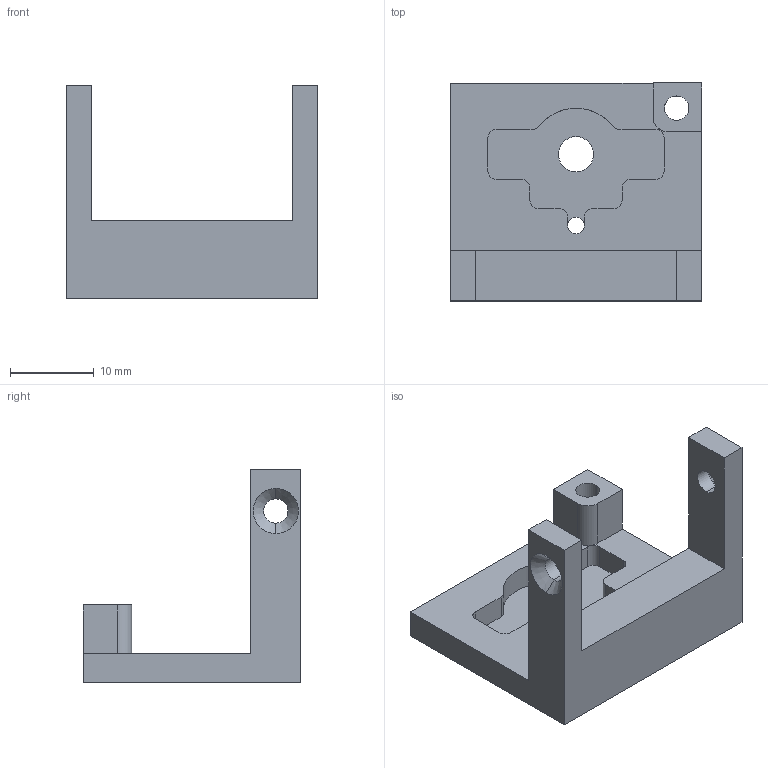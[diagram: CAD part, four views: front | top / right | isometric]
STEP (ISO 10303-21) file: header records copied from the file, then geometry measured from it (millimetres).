
FILE_DESCRIPTION (( 'STEP AP203' ), '1' );
FILE_NAME ('传感器座.STEP', '2026-08-07T08:59:19', ( '微软用户' ), ( '微软中国' ), 'SwSTEP 2.0', 'SolidWorks 2024', '' );
FILE_SCHEMA (( 'CONFIG_CONTROL_DESIGN' ));
Length unit declared in the file: millimetre
Products named in the file (1): 传感器座
Bounding box: 30 x 26 x 25.5 mm (x, y, z)
Volume: 3870.7 mm3; surface area: 3330.5 mm2
Topology: 1 solids, 1 shells, 58 faces, 160 edges, 104 vertices
Faces by surface type: plane 28, cylinder 24, cone 6
Entity records: 1951 total; most frequent: DIRECTION 332, CARTESIAN_POINT 323, ORIENTED_EDGE 320, EDGE_CURVE 160, AXIS2_PLACEMENT_3D 113, VECTOR 106, LINE 106, VERTEX_POINT 104
